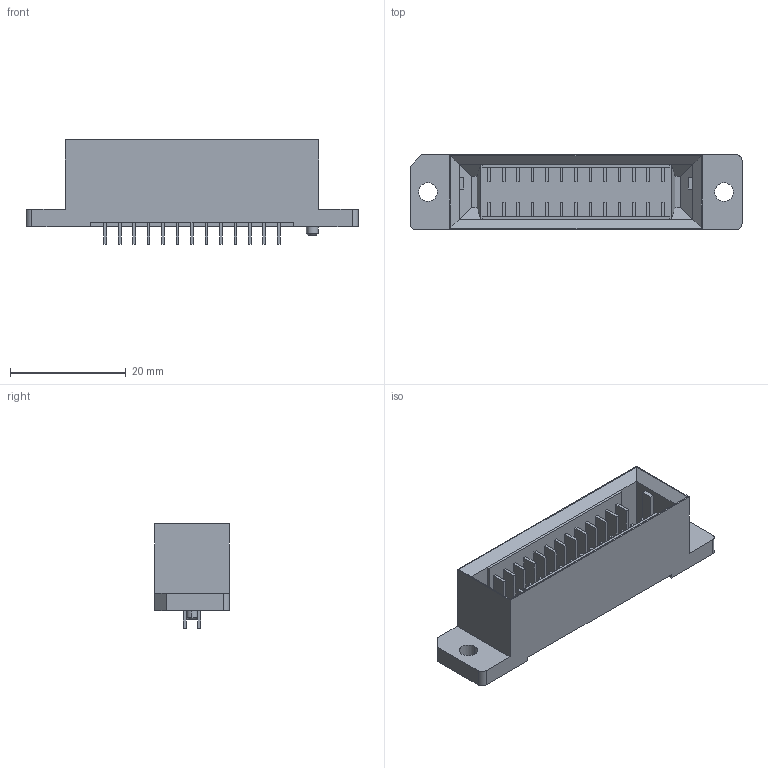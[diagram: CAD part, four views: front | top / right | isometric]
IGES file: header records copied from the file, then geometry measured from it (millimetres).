
Start section: Elysium IGES Interface
Bounding box: 57.3 x 12.9 x 18 mm (x, y, z)
Volume: 4652.5 mm3; surface area: 5728.5 mm2
Topology: 1 solids, 1 shells, 302 faces, 798 edges, 526 vertices
Faces by surface type: bspline 302
